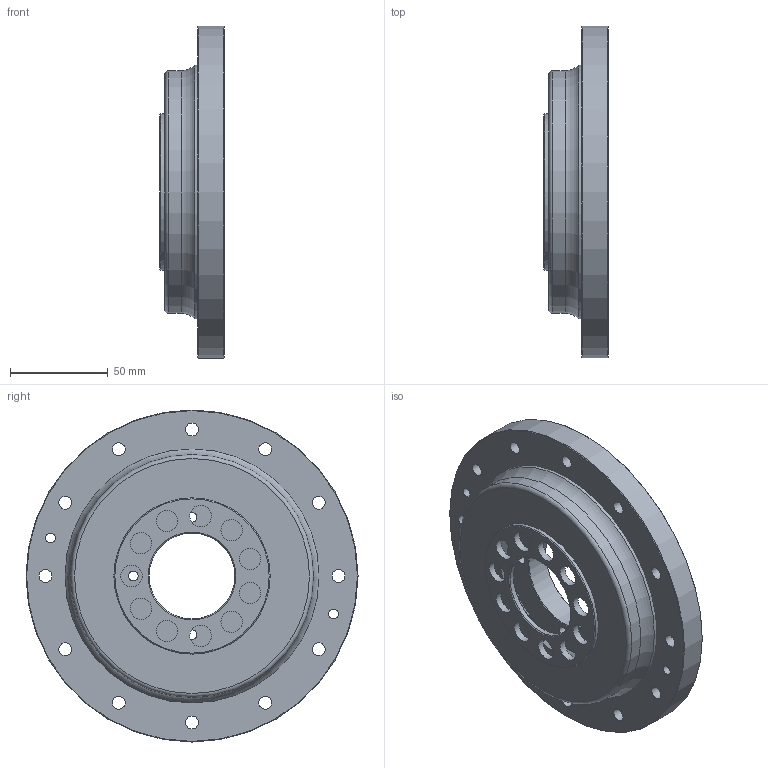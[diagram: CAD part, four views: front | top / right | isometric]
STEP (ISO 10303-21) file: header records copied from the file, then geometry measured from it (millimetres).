
FILE_DESCRIPTION (( 'STEP AP203' ), '1' );
FILE_NAME ('FCD-50-XXX-C.STEP', '2025-03-18T02:32:31', ( '微软用户' ), ( '微软中国' ), 'SwSTEP 2.0', 'SolidWorks 2016', '' );
FILE_SCHEMA (( 'CONFIG_CONTROL_DESIGN' ));
Length unit declared in the file: millimetre
Products named in the file (1): FCD-50-XXX-C
Bounding box: 33 x 170 x 170 mm (x, y, z)
Volume: 298701.7 mm3; surface area: 154558.5 mm2
Topology: 30 solids, 30 shells, 229 faces, 587 edges, 389 vertices
Faces by surface type: cylinder 109, plane 75, sphere 23, cone 13, torus 9
Full cylindrical faces by diameter (mm): 5 x6, 6.6 x12, 11 x23, 44 x1, 50 x1, 80 x1, 87.9 x1, 88.9 x2, 91.4 x1, 96.26 x2, 98 x1, 104 x1, 114 x1, 115.62 x2, 122.7 x2, 124.3 x1, 125.706 x1, 130 x1, 170 x1
Entity records: 6153 total; most frequent: DIRECTION 1200, CARTESIAN_POINT 970, ORIENTED_EDGE 832, AXIS2_PLACEMENT_3D 554, EDGE_CURVE 416, EDGE_LOOP 376, VERTEX_POINT 324, CIRCLE 324
